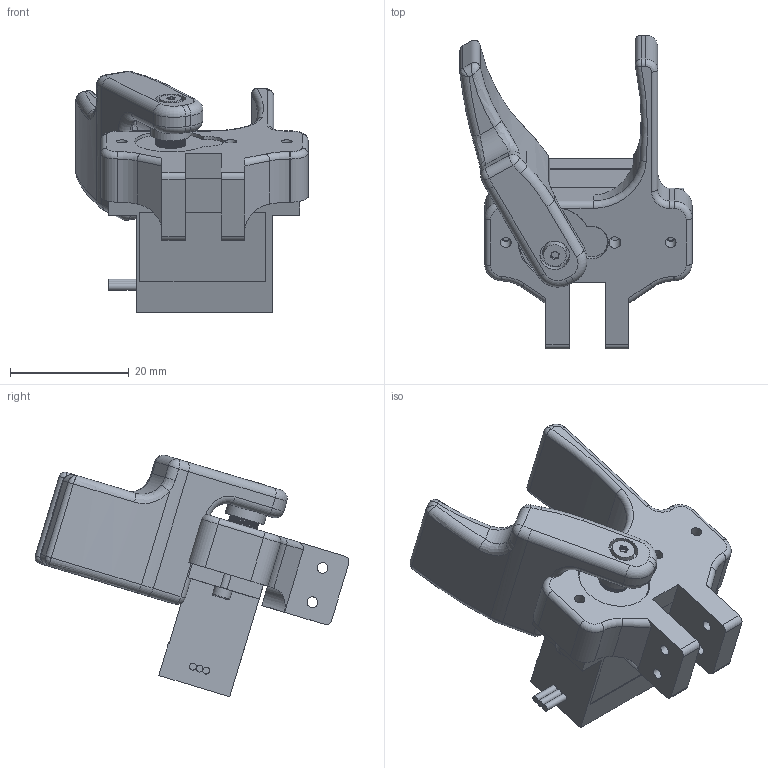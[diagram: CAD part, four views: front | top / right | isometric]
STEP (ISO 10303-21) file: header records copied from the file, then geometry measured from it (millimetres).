
FILE_DESCRIPTION(/* description */ ('','CAx-IF Rec.Pracs.---Representation and Presentation of Product Manufacturing Information (PMI)---4.0---2014-10-13'),/* implementation_level */ '2;1');
FILE_NAME(/* name */ 'Assieme_blocco_pinza.stp',/* time_stamp */ '2026-04-07T10:15:41+02:00',/* author */ ('R5800u'),/* organization */ (''),/* preprocessor_version */ 'ST-DEVELOPER v20',/* originating_system */ 'Autodesk Inventor 2025',/* authorisation */ '');
FILE_SCHEMA (('AP242_MANAGED_MODEL_BASED_3D_ENGINEERING_MIM_LF { 1 0 10303 442 1 1 4 }'));
Length unit declared in the file: millimetre
Products named in the file (7): Assieme_blocco_pinza; blocco_pinza_eco_orizzontale_b; MG90_ldb_v2; dito_pinza_mg90s; MG90S ARM singolo; Vite a testa cilindrica incassata esalobulare ISO 14580 - M2x8-4.8; ANSI B18.3.1M - M1,6x0,35 x 8, FSHCSM
Assembly tree (7 placements, depth 2):
  Assieme_blocco_pinza
    blocco_pinza_eco_orizzontale_b
    MG90_ldb_v2
    dito_pinza_mg90s
    MG90S ARM singolo
    Vite a testa cilindrica incassata esalobulare ISO 14580 - M2x8-4.8
    ANSI B18.3.1M - M1,6x0,35 x 8, FSHCSM  x2
Bounding box: 39.14 x 52.95 x 40.74 mm (x, y, z)
Volume: 15316.1 mm3; surface area: 9665.7 mm2
Topology: 7 solids, 7 shells, 553 faces, 1480 edges, 946 vertices
Faces by surface type: plane 309, cylinder 178, torus 37, bspline 15, sphere 8, cone 6
Full cylindrical faces by diameter (mm): 1.167 x3, 1.6 x2, 1.8 x6, 2 x2, 2.2 x2, 2.7 x1, 3 x2, 4.75 x1, 5 x2, 5.5 x1, 6.8 x1
Entity records: 23034 total; most frequent: CARTESIAN_POINT 5578, DIRECTION 3481, ORIENTED_EDGE 2868, EDGE_CURVE 1434, AXIS2_PLACEMENT_3D 1253, STYLED_ITEM 998, LINE 975, VECTOR 975
